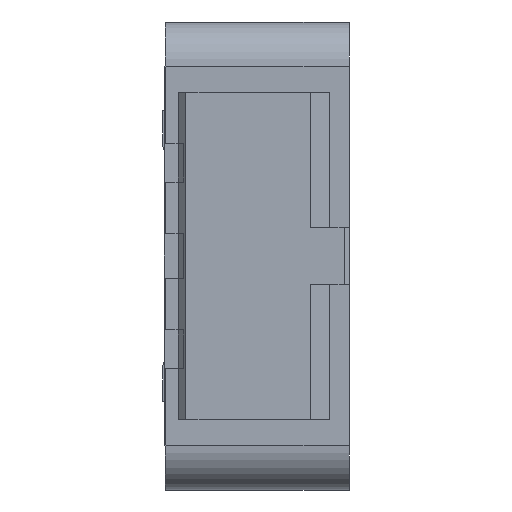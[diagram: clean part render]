
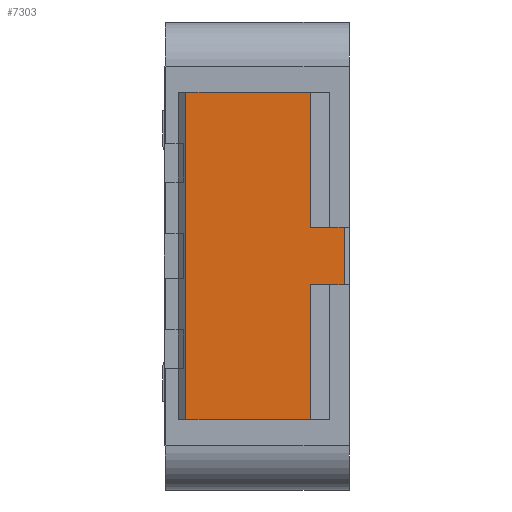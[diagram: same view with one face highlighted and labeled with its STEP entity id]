
A CAD part, left-side view. The second image highlights one B-rep face of the part: STEP entity #7303.
In plain terms, the highlighted planar face has unit normal (-1, 0, 0).
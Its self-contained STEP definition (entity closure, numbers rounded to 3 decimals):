
#181 = ORIENTED_EDGE ( 'NONE', *, *, #28481, .T. ) ;
#314 = ORIENTED_EDGE ( 'NONE', *, *, #34493, .F. ) ;
#695 = LINE ( 'NONE', #28838, #11694 ) ;
#2069 = CARTESIAN_POINT ( 'NONE',  ( -6.9, 1.26, 0. ) ) ;
#2406 = LINE ( 'NONE', #19785, #17476 ) ;
#2411 = CARTESIAN_POINT ( 'NONE',  ( -6.9, 0.35, 1.275 ) ) ;
#3343 = EDGE_CURVE ( 'NONE', #26241, #15649, #25116, .T. ) ;
#3431 = CARTESIAN_POINT ( 'NONE',  ( -6.9, 0.35, -1.275 ) ) ;
#4117 = VERTEX_POINT ( 'NONE', #34080 ) ;
#4120 = LINE ( 'NONE', #3431, #39926 ) ;
#4365 = VERTEX_POINT ( 'NONE', #32228 ) ;
#4506 = CARTESIAN_POINT ( 'NONE',  ( -6.9, 0.35, 0.225 ) ) ;
#4573 = DIRECTION ( 'NONE',  ( 0., -1., 0. ) ) ;
#5166 = ORIENTED_EDGE ( 'NONE', *, *, #39068, .T. ) ;
#5461 = CARTESIAN_POINT ( 'NONE',  ( -6.9, 0.35, 0.225 ) ) ;
#5515 = FACE_OUTER_BOUND ( 'NONE', #37171, .T. ) ;
#6332 = ORIENTED_EDGE ( 'NONE', *, *, #14507, .T. ) ;
#6966 = AXIS2_PLACEMENT_3D ( 'NONE', #2069, #43927, #26545 ) ;
#7303 = ADVANCED_FACE ( 'NONE', ( #5515 ), #19460, .T. ) ;
#7328 = CARTESIAN_POINT ( 'NONE',  ( -6.9, 0.09, 0. ) ) ;
#7640 = ORIENTED_EDGE ( 'NONE', *, *, #3343, .F. ) ;
#8010 = DIRECTION ( 'NONE',  ( 0., 0., 1. ) ) ;
#9945 = VERTEX_POINT ( 'NONE', #20348 ) ;
#10357 = CARTESIAN_POINT ( 'NONE',  ( -6.9, 1.32, -1.275 ) ) ;
#11541 = CARTESIAN_POINT ( 'NONE',  ( -6.9, 1.32, 0. ) ) ;
#11694 = VECTOR ( 'NONE', #4573, 1000. ) ;
#14507 = EDGE_CURVE ( 'NONE', #4365, #4117, #4120, .T. ) ;
#15649 = VERTEX_POINT ( 'NONE', #39502 ) ;
#17476 = VECTOR ( 'NONE', #37666, 1000. ) ;
#18527 = LINE ( 'NONE', #7328, #21201 ) ;
#18928 = VECTOR ( 'NONE', #32200, 1000. ) ;
#19460 = PLANE ( 'NONE',  #6966 ) ;
#19785 = CARTESIAN_POINT ( 'NONE',  ( -6.9, 0.35, 1.275 ) ) ;
#19848 = ORIENTED_EDGE ( 'NONE', *, *, #43115, .T. ) ;
#20348 = CARTESIAN_POINT ( 'NONE',  ( -6.9, 0.09, -0.225 ) ) ;
#21201 = VECTOR ( 'NONE', #8010, 1000. ) ;
#23508 = VECTOR ( 'NONE', #33639, 1000. ) ;
#25116 = LINE ( 'NONE', #4506, #18928 ) ;
#26241 = VERTEX_POINT ( 'NONE', #5461 ) ;
#26545 = DIRECTION ( 'NONE',  ( 0., 1., 0. ) ) ;
#26991 = LINE ( 'NONE', #11541, #35194 ) ;
#27906 = VERTEX_POINT ( 'NONE', #2411 ) ;
#28481 = EDGE_CURVE ( 'NONE', #4117, #9945, #695, .T. ) ;
#28838 = CARTESIAN_POINT ( 'NONE',  ( -6.9, 0.35, -0.225 ) ) ;
#30307 = EDGE_CURVE ( 'NONE', #27906, #26241, #2406, .T. ) ;
#30676 = CARTESIAN_POINT ( 'NONE',  ( -6.9, 1.32, 1.275 ) ) ;
#30758 = EDGE_CURVE ( 'NONE', #44236, #27906, #38903, .T. ) ;
#31574 = DIRECTION ( 'NONE',  ( 0., -1., 0. ) ) ;
#32200 = DIRECTION ( 'NONE',  ( 0., -1., 0. ) ) ;
#32228 = CARTESIAN_POINT ( 'NONE',  ( -6.9, 0.35, -1.275 ) ) ;
#33376 = VECTOR ( 'NONE', #31574, 1000. ) ;
#33639 = DIRECTION ( 'NONE',  ( 0., -1., 0. ) ) ;
#34080 = CARTESIAN_POINT ( 'NONE',  ( -6.9, 0.35, -0.225 ) ) ;
#34329 = LINE ( 'NONE', #37310, #23508 ) ;
#34493 = EDGE_CURVE ( 'NONE', #42743, #44236, #26991, .T. ) ;
#35194 = VECTOR ( 'NONE', #35800, 1000. ) ;
#35800 = DIRECTION ( 'NONE',  ( 0., 0., 1. ) ) ;
#37171 = EDGE_LOOP ( 'NONE', ( #5166, #6332, #181, #19848, #7640, #40305, #44872, #314 ) ) ;
#37310 = CARTESIAN_POINT ( 'NONE',  ( -6.9, 1.48, -1.275 ) ) ;
#37666 = DIRECTION ( 'NONE',  ( 0., 0., -1. ) ) ;
#38459 = CARTESIAN_POINT ( 'NONE',  ( -6.9, 1.48, 1.275 ) ) ;
#38903 = LINE ( 'NONE', #38459, #33376 ) ;
#39068 = EDGE_CURVE ( 'NONE', #42743, #4365, #34329, .T. ) ;
#39502 = CARTESIAN_POINT ( 'NONE',  ( -6.9, 0.09, 0.225 ) ) ;
#39926 = VECTOR ( 'NONE', #41864, 1000. ) ;
#40305 = ORIENTED_EDGE ( 'NONE', *, *, #30307, .F. ) ;
#41864 = DIRECTION ( 'NONE',  ( 0., 0., 1. ) ) ;
#42743 = VERTEX_POINT ( 'NONE', #10357 ) ;
#43115 = EDGE_CURVE ( 'NONE', #9945, #15649, #18527, .T. ) ;
#43927 = DIRECTION ( 'NONE',  ( -1., 0., 0. ) ) ;
#44236 = VERTEX_POINT ( 'NONE', #30676 ) ;
#44872 = ORIENTED_EDGE ( 'NONE', *, *, #30758, .F. ) ;
